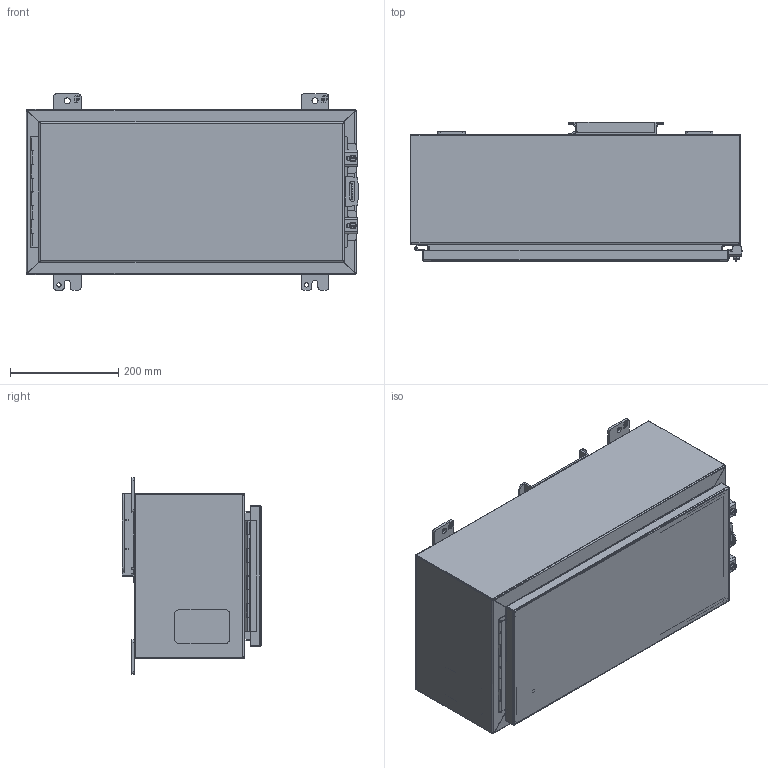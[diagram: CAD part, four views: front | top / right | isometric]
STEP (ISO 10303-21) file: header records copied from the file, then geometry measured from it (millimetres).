
FILE_DESCRIPTION(/* description */ ('Unknown'),/* implementation_level */ '2;1');
FILE_NAME(/* name */ '1418A8LP',/* time_stamp */ '2026-02-20T16:27:52-05:00',/* author */ ('Unknown'),/* organization */ ('Unknown'),/* preprocessor_version */ 'ST-DEVELOPER v18.104',/* originating_system */ 'Solid Edge',/* authorisation */ 'Unknown');
FILE_SCHEMA (('AUTOMOTIVE_DESIGN {1 0 10303 214 3 1 1}'));
Length unit declared in the file: millimetre
Products named in the file (28): 1418A8LP; STD26094; STD21878; COM42780; COM40153-1; COM71780-1; COM40153-2; COM71783-1; COM70219_oa_0; PNT11078; COM48426; FET07710; AKT90223; SPR20265; SCC19011; WAF25035; COM42667; BUL10020; QLB30109; PKT66; KIT90256; LAB30005; NTS165305; NTS16535; KIT90518; WAF25059; NTS166105
Assembly tree (38 placements, depth 3):
  1418A8LP
    STD26094  x4
    STD21878
    COM42780  x2
    COM40153-1
    COM71780-1
      COM40153-2
      COM71783-1
      COM71780-1
      STD21878
      COM70219_oa_0
      PNT11078
    COM48426
    FET07710  x4
    AKT90223  x2
      SPR20265
      SCC19011
      WAF25035
      COM42667
    PNT11078
    BUL10020
    QLB30109
    PKT66
    KIT90256
      LAB30005
      NTS165305
      NTS16535
    KIT90518
      WAF25059
      NTS166105
      LAB30005
Bounding box: 612.77 x 257.18 x 361.95 mm (x, y, z)
Volume: 1800955.9 mm3; surface area: 1912239.9 mm2
Topology: 34 solids, 35 shells, 1125 faces, 2846 edges, 1820 vertices
Faces by surface type: plane 747, cylinder 283, bspline 49, cone 24, torus 20, sphere 2
Full cylindrical faces by diameter (mm): 2.54 x1, 3.175 x1, 4.976 x1, 5.41 x2, 6.198 x2, 6.35 x3, 6.731 x2, 7.137 x2, 7.805 x1, 7.938 x4, 8.382 x4, 9.525 x4, 9.906 x2, 11.113 x4, 11.303 x1, 12.7 x2, 16.51 x4, 25.4 x1, 88.9 x1
Entity records: 27648 total; most frequent: CARTESIAN_POINT 7862, ORIENTED_EDGE 3940, DIRECTION 3724, EDGE_CURVE 1970, LINE 1328, VECTOR 1328, VERTEX_POINT 1262, AXIS2_PLACEMENT_3D 1198
